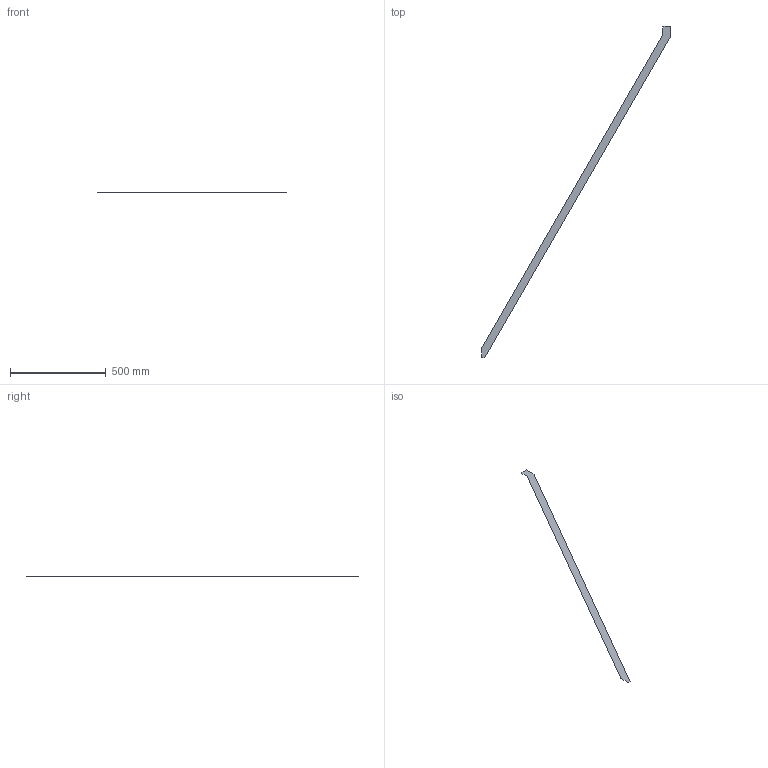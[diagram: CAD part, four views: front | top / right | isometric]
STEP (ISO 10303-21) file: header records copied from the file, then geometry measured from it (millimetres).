
FILE_DESCRIPTION(('FreeCAD Model'),'2;1');
FILE_NAME('D:/Users/Dfo15/OneDrive/Documents/stiffener1.step', '2018-10-14T01:15:54',('Author'),(''), 'Open CASCADE STEP processor 7.2','FreeCAD','Unknown');
FILE_SCHEMA(('AUTOMOTIVE_DESIGN { 1 0 10303 214 1 1 1 1 }'));
Length unit declared in the file: millimetre
Products named in the file (1): DWire
Bounding box: 988.78 x 1735 x 0 mm (x, y, z)
Surface area: 78975.8 mm2 (no closed solid volume)
Topology: 0 solids, 1 shells, 1 faces, 10 edges, 10 vertices
Faces by surface type: plane 1
Entity records: 185 total; most frequent: CARTESIAN_POINT 32, DIRECTION 24, LINE 20, VECTOR 20, ORIENTED_EDGE 10, EDGE_CURVE 10, VERTEX_POINT 10, SURFACE_CURVE 10
